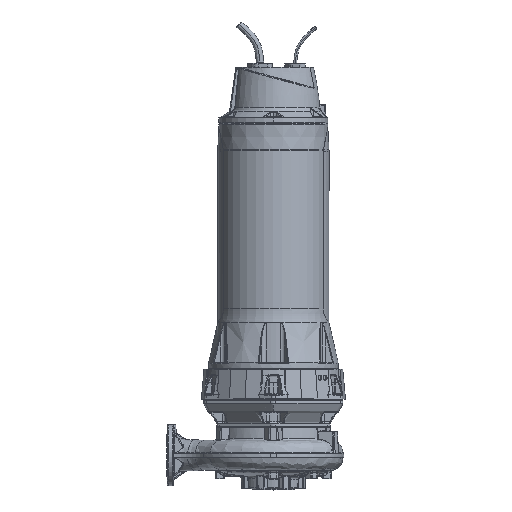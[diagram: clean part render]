
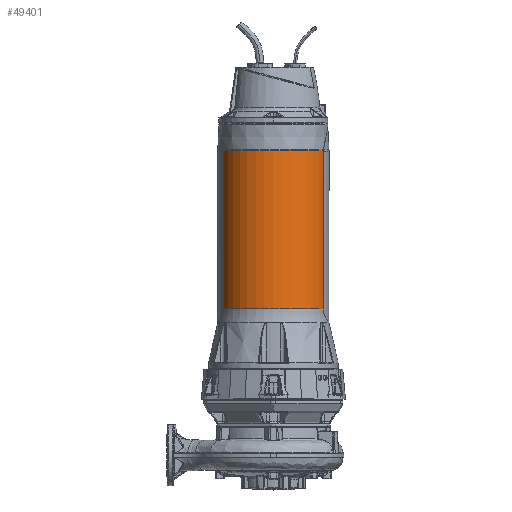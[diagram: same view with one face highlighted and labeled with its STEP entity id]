
A CAD part, top view. The second image highlights one B-rep face of the part: STEP entity #49401.
In plain terms, the highlighted cylindrical face has radius 202 mm (diameter 404 mm), a partial arc.
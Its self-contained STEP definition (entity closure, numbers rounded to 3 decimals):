
#8182 = CARTESIAN_POINT ( 'NONE',  ( 186.176, 820.5, 78.374 ) ) ;
#12776 = VECTOR ( 'NONE', #80602, 1000. ) ;
#17147 = EDGE_CURVE ( 'NONE', #75872, #23531, #47775, .T. ) ;
#17879 = CARTESIAN_POINT ( 'NONE',  ( 186.075, 225.656, 78.614 ) ) ;
#23414 = CARTESIAN_POINT ( 'NONE',  ( -186.075, 818.428, 78.614 ) ) ;
#23531 = VERTEX_POINT ( 'NONE', #70113 ) ;
#26980 = B_SPLINE_CURVE_WITH_KNOTS ( 'NONE', 3,
 ( #47662, #34945, #139810, #61479 ),
 .UNSPECIFIED., .F., .F.,
 ( 4, 4 ),
 ( 0., 0.003 ),
 .UNSPECIFIED. ) ;
#30234 = DIRECTION ( 'NONE',  ( 0., -1., 0. ) ) ;
#33054 = ORIENTED_EDGE ( 'NONE', *, *, #63810, .T. ) ;
#34183 = VERTEX_POINT ( 'NONE', #8182 ) ;
#34945 = CARTESIAN_POINT ( 'NONE',  ( 186.075, 818.428, 78.614 ) ) ;
#38624 = CARTESIAN_POINT ( 'NONE',  ( 0., 225.656, 0. ) ) ;
#39316 = DIRECTION ( 'NONE',  ( 0., -1., 0. ) ) ;
#47033 = CARTESIAN_POINT ( 'NONE',  ( 0., -106.33, 0. ) ) ;
#47662 = CARTESIAN_POINT ( 'NONE',  ( 186.075, 817.381, 78.614 ) ) ;
#47775 = LINE ( 'NONE', #106327, #12776 ) ;
#49401 = ADVANCED_FACE ( 'NONE', ( #86451 ), #74073, .T. ) ;
#51895 = DIRECTION ( 'NONE',  ( -1., 0., 0. ) ) ;
#57878 = ORIENTED_EDGE ( 'NONE', *, *, #167274, .T. ) ;
#61479 = CARTESIAN_POINT ( 'NONE',  ( 186.176, 820.5, 78.374 ) ) ;
#61825 = EDGE_LOOP ( 'NONE', ( #139670, #33054, #107149, #123429, #57878, #112253 ) ) ;
#62732 = LINE ( 'NONE', #131033, #162774 ) ;
#63810 = EDGE_CURVE ( 'NONE', #110399, #105195, #62732, .T. ) ;
#64557 = CIRCLE ( 'NONE', #154269, 202. ) ;
#70113 = CARTESIAN_POINT ( 'NONE',  ( 186.075, 817.381, 78.614 ) ) ;
#74073 = CYLINDRICAL_SURFACE ( 'NONE', #140738, 202. ) ;
#75850 = CARTESIAN_POINT ( 'NONE',  ( -186.176, 820.5, 78.374 ) ) ;
#75872 = VERTEX_POINT ( 'NONE', #17879 ) ;
#80602 = DIRECTION ( 'NONE',  ( 0., 1., 0. ) ) ;
#81500 = B_SPLINE_CURVE_WITH_KNOTS ( 'NONE', 3,
 ( #75850, #126641, #23414, #115278 ),
 .UNSPECIFIED., .F., .F.,
 ( 4, 4 ),
 ( 0., 0.003 ),
 .UNSPECIFIED. ) ;
#85590 = CARTESIAN_POINT ( 'NONE',  ( -186.075, 817.381, 78.614 ) ) ;
#86451 = FACE_OUTER_BOUND ( 'NONE', #61825, .T. ) ;
#92199 = AXIS2_PLACEMENT_3D ( 'NONE', #38624, #130314, #51895 ) ;
#105195 = VERTEX_POINT ( 'NONE', #122061 ) ;
#106327 = CARTESIAN_POINT ( 'NONE',  ( 186.075, -106.33, 78.614 ) ) ;
#107149 = ORIENTED_EDGE ( 'NONE', *, *, #141946, .F. ) ;
#107765 = VERTEX_POINT ( 'NONE', #134421 ) ;
#108968 = CARTESIAN_POINT ( 'NONE',  ( 0., 820.5, 0. ) ) ;
#110399 = VERTEX_POINT ( 'NONE', #85590 ) ;
#112253 = ORIENTED_EDGE ( 'NONE', *, *, #115734, .T. ) ;
#113029 = DIRECTION ( 'NONE',  ( -1., 0., 0. ) ) ;
#115278 = CARTESIAN_POINT ( 'NONE',  ( -186.075, 817.381, 78.614 ) ) ;
#115734 = EDGE_CURVE ( 'NONE', #34183, #107765, #64557, .T. ) ;
#121604 = CIRCLE ( 'NONE', #92199, 202. ) ;
#122027 = DIRECTION ( 'NONE',  ( -1., 0., 0. ) ) ;
#122061 = CARTESIAN_POINT ( 'NONE',  ( -186.075, 225.656, 78.614 ) ) ;
#123429 = ORIENTED_EDGE ( 'NONE', *, *, #17147, .T. ) ;
#125498 = DIRECTION ( 'NONE',  ( 0., -1., 0. ) ) ;
#126641 = CARTESIAN_POINT ( 'NONE',  ( -186.109, 819.468, 78.533 ) ) ;
#130314 = DIRECTION ( 'NONE',  ( 0., -1., 0. ) ) ;
#131033 = CARTESIAN_POINT ( 'NONE',  ( -186.075, -106.33, 78.614 ) ) ;
#134421 = CARTESIAN_POINT ( 'NONE',  ( -186.176, 820.5, 78.374 ) ) ;
#139670 = ORIENTED_EDGE ( 'NONE', *, *, #155647, .T. ) ;
#139810 = CARTESIAN_POINT ( 'NONE',  ( 186.109, 819.468, 78.533 ) ) ;
#140738 = AXIS2_PLACEMENT_3D ( 'NONE', #47033, #125498, #113029 ) ;
#141946 = EDGE_CURVE ( 'NONE', #75872, #105195, #121604, .T. ) ;
#154269 = AXIS2_PLACEMENT_3D ( 'NONE', #108968, #30234, #122027 ) ;
#155647 = EDGE_CURVE ( 'NONE', #107765, #110399, #81500, .T. ) ;
#162774 = VECTOR ( 'NONE', #39316, 1000. ) ;
#167274 = EDGE_CURVE ( 'NONE', #23531, #34183, #26980, .T. ) ;
